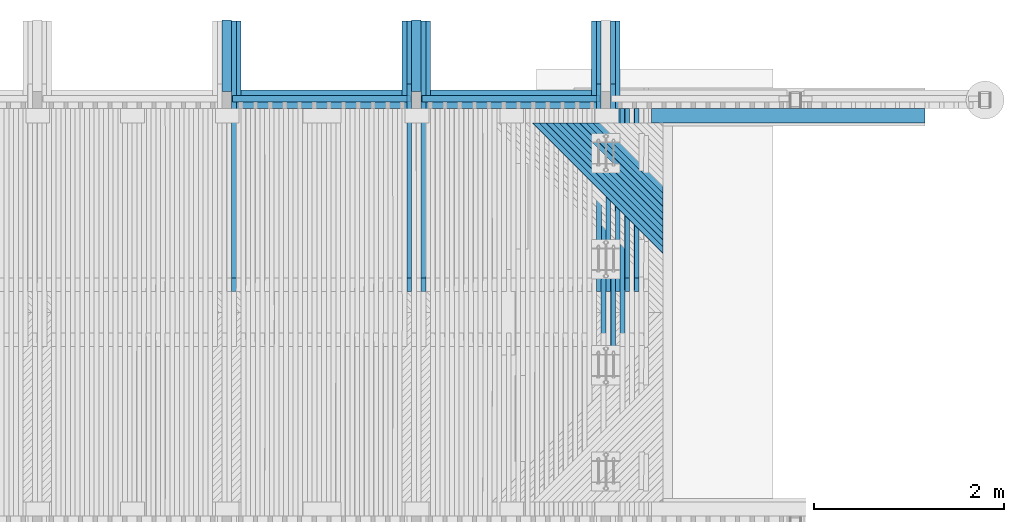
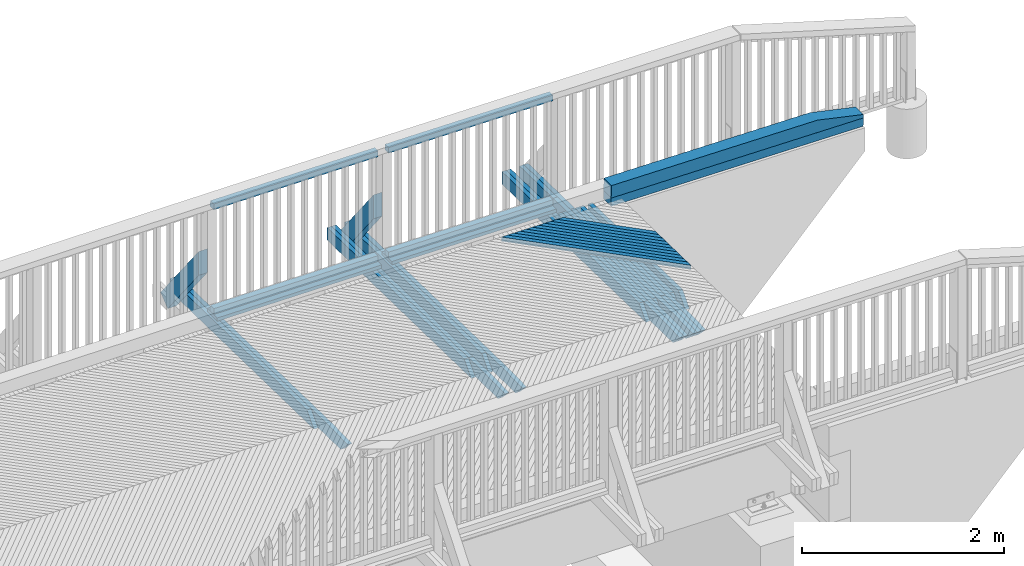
# One storey, part 47 of 53: 37 beams, 2 members.
"""IFC2X3 building model written with IfcOpenShell, lengths in millimetres."""

from ifc_helpers import new_model, si_unit, frame, origin_with_axes, place, context, subcontext, project, spatial, faceted_brep, material, type_object, element, save


model = new_model("IFC2X3")

# Units and contexts
model_context = context("Model", 3, precision=1e-05, world=origin_with_axes())
body_context = subcontext(model_context, "Body", "Model", "MODEL_VIEW")
ifc_project = project(units=[si_unit("LENGTHUNIT", "METRE", prefix="MILLI"), si_unit("AREAUNIT", "SQUARE_METRE"), si_unit("VOLUMEUNIT", "CUBIC_METRE"), si_unit("MASSUNIT", "GRAM", prefix="KILO"), si_unit("TIMEUNIT", "SECOND"), si_unit("PLANEANGLEUNIT", "RADIAN"), si_unit("SOLIDANGLEUNIT", "STERADIAN"), si_unit("THERMODYNAMICTEMPERATUREUNIT", "DEGREE_CELSIUS"), si_unit("LUMINOUSINTENSITYUNIT", "LUMEN")], contexts=[model_context])

# Site, building, storey
site_placement = place(None, origin_with_axes())
site = spatial("IfcSite", under=ifc_project, at=site_placement, Name="Undefined", CompositionType="ELEMENT")
building_placement = place(site_placement, origin_with_axes())
building = spatial("IfcBuilding", under=site, at=building_placement, Name="Undefined", CompositionType="ELEMENT")
storey_placement = place(building_placement, origin_with_axes())
storey = spatial("IfcBuildingStorey", under=building, at=storey_placement, Name="Undefined", CompositionType="ELEMENT", Elevation=0.0)

# Beams
ifc_material = material(Name="TIMBER/Timber_Undefined")
beam_type_1 = type_object("IfcBeamType", Name="150*100", PredefinedType="NOTDEFINED")
beam_1_placement = place(storey_placement, frame((19364.0305880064, 44439.9999999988, 3118.67572907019), z_axis=(0.0, -1.0, 0.0), x_axis=(-0.999904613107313, 0.0, 0.0138117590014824)))
element("IfcBeam", 1, at=beam_1_placement, inside=storey, type_object=beam_type_1, material=ifc_material, Name="TÖRMÄYSJOHDE", ObjectType="150*100", context=body_context, shape_type="Brep", body=[
    faceted_brep([(-3.63797880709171e-12, 50.0, -75.0), (-3.63797880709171e-12, 50.0, 75.0), (2885.27521749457, 50.0, 75.0), (2885.27521749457, 50.0, -75.0), (0.0, -49.9999999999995, 75.0), (2885.27521749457, -49.9999999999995, 75.0), (0.0, -49.9999999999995, -75.0), (2885.27521749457, -49.9999999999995, -75.0)], [[[0, 1, 2, 3]], [[1, 4, 5, 2]], [[4, 6, 7, 5]], [[6, 0, 3, 7]], [[5, 7, 3, 2]], [[6, 4, 1, 0]]]),
])
beam_type_2 = type_object("IfcBeamType", Name="150*150", PredefinedType="NOTDEFINED")
beam_2_placement = place(storey_placement, frame((19366.0358819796, 44439.9999999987, 3243.66334439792), z_axis=(0.0, -1.0, 0.0), x_axis=(-0.999904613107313, 0.0, 0.0138117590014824)))
element("IfcBeam", 2, at=beam_2_placement, inside=storey, type_object=beam_type_2, material=ifc_material, Name="TÖRMÄYSJOHDE", ObjectType="150*150", context=body_context, shape_type="Brep", body=[
    faceted_brep([(2885.27521749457, -74.9999999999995, 75.0), (2885.27521749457, -74.9999999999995, -75.0), (2885.27521749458, 75.0, -75.0), (2885.27521749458, 75.0, 75.0), (3.63797880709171e-12, 75.0000000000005, -75.0), (3.63797880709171e-12, 75.0000000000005, 75.0), (3.63797880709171e-12, 33.1222400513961, -75.0), (3.63797880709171e-12, 33.1222400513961, 75.0), (529.511118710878, -75.0, 75.0), (529.511118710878, -75.0, -75.0)], [[[0, 1, 2, 3]], [[4, 5, 3, 2]], [[5, 4, 6, 7]], [[0, 3, 5, 7, 8]], [[1, 0, 8, 9]], [[4, 2, 1, 9, 6]], [[8, 7, 6, 9]]]),
])

# Members
member_type = type_object("IfcMemberType", Name="180*100", PredefinedType="NOTDEFINED")
for number, where, z_axis, x_axis in (
    (3, (14000.0064146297, 45378.7683991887, 2924.11964154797), (0.0, 0.783926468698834, 0.620853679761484), (-4.01699999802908e-06, -0.620853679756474, 0.78392646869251)),
    (4, (12000.0064146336, 45378.7683991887, 2940.69175529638), (0.0, 0.783926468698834, 0.620853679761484), (-4.01699999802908e-06, -0.620853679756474, 0.78392646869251)),
):
    element("IfcMember", number, at=place(storey_placement, frame(where, z_axis=z_axis, x_axis=x_axis)), inside=storey, type_object=member_type, material=ifc_material, Name="KAIDEPYLVÄS", ObjectType="180*100", context=body_context, shape_type="Brep", body=[
        faceted_brep([(0.0, 50.0, -89.9999999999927), (0.0, 50.0, 90.0), (1214.99440716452, 50.0, 90.0000000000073), (987.715792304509, 50.0, -89.9999999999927), (0.0, -49.9999999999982, 90.0000000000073), (1214.99480886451, -50.0, 90.0000000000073), (-3.63797880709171e-12, -49.9999999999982, -90.0), (987.716194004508, -49.9999999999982, -89.9999999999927)], [[[0, 1, 2, 3]], [[1, 4, 5, 2]], [[4, 6, 7, 5]], [[6, 0, 3, 7]], [[5, 7, 3, 2]], [[6, 4, 1, 0]]]),
    ])

# Beams
beam_type_3 = type_object("IfcBeamType", Name="70*70", PredefinedType="NOTDEFINED")
beam_3_placement = place(storey_placement, frame((14059.5719402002, 44619.9900118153, 3233.34227096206), z_axis=(0.0, 1.0, 0.0), x_axis=(0.999925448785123, 0.0, -0.0122105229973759)))
element("IfcBeam", 5, at=beam_3_placement, inside=storey, type_object=beam_type_3, material=ifc_material, Name="BEAM", ObjectType="70*70", context=body_context, shape_type="Brep", body=[
    faceted_brep([(-3.63797880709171e-12, 35.0000000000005, -35.0), (-3.63797880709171e-12, 35.0000000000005, 35.0), (1880.14165787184, 35.0, 35.0), (1880.14165787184, 35.0, -35.0), (-3.63797880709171e-12, -34.9999999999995, 35.0), (1880.14165787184, -34.9999999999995, 35.0), (-3.63797880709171e-12, -34.9999999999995, -35.0), (1880.14165787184, -34.9999999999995, -35.0)], [[[0, 1, 2, 3]], [[1, 4, 5, 2]], [[4, 6, 7, 5]], [[6, 0, 3, 7]], [[5, 7, 3, 2]], [[6, 4, 1, 0]]]),
])
beam_4_placement = place(storey_placement, frame((12059.6944082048, 44619.9899990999, 3249.94799357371), z_axis=(0.0, 1.0, 0.0), x_axis=(0.999961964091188, 0.0, -0.00872183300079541)))
element("IfcBeam", 6, at=beam_4_placement, inside=storey, type_object=beam_type_3, material=ifc_material, Name="BEAM", ObjectType="70*70", context=body_context, shape_type="Brep", body=[
    faceted_brep([(-3.63797880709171e-12, 35.0000000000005, -35.0), (-3.63797880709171e-12, 35.0000000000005, 35.0), (1880.07227097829, 34.9999999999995, 35.0), (1880.07227097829, 34.9999999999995, -35.0), (-3.63797880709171e-12, -34.9999999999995, 35.0), (1880.07227097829, -35.0000000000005, 35.0), (-3.63797880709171e-12, -34.9999999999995, -35.0), (1880.07227097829, -35.0000000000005, -35.0)], [[[0, 1, 2, 3]], [[1, 4, 5, 2]], [[4, 6, 7, 5]], [[6, 0, 3, 7]], [[5, 7, 3, 2]], [[6, 4, 1, 0]]]),
])
beam_5_placement = place(storey_placement, frame((14059.5719402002, 44619.9900118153, 4498.34227096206), z_axis=(0.0, 1.0, 0.0), x_axis=(0.999925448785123, 0.0, -0.0122105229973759)))
element("IfcBeam", 7, at=beam_5_placement, inside=storey, type_object=beam_type_3, material=ifc_material, Name="BEAM", ObjectType="70*70", context=body_context, shape_type="Brep", body=[
    faceted_brep([(-3.63797880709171e-12, 35.0000000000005, -35.0), (-3.63797880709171e-12, 35.0000000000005, 35.0), (1880.14165787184, 35.0, 35.0), (1880.14165787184, 35.0, -35.0), (-3.63797880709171e-12, -34.9999999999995, 35.0), (1880.14165787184, -34.9999999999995, 35.0), (-3.63797880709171e-12, -34.9999999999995, -35.0), (1880.14165787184, -34.9999999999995, -35.0)], [[[0, 1, 2, 3]], [[1, 4, 5, 2]], [[4, 6, 7, 5]], [[6, 0, 3, 7]], [[5, 7, 3, 2]], [[6, 4, 1, 0]]]),
])
beam_6_placement = place(storey_placement, frame((12059.6944082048, 44619.9899990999, 4514.94799357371), z_axis=(0.0, 1.0, 0.0), x_axis=(0.999961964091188, 0.0, -0.00872183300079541)))
element("IfcBeam", 8, at=beam_6_placement, inside=storey, type_object=beam_type_3, material=ifc_material, Name="BEAM", ObjectType="70*70", context=body_context, shape_type="Brep", body=[
    faceted_brep([(-3.63797880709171e-12, 35.0000000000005, -35.0), (-3.63797880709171e-12, 35.0000000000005, 35.0), (1880.07227097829, 34.9999999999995, 35.0), (1880.07227097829, 34.9999999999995, -35.0), (-3.63797880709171e-12, -34.9999999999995, 35.0), (1880.07227097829, -35.0000000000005, 35.0), (-3.63797880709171e-12, -34.9999999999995, -35.0), (1880.07227097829, -35.0000000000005, -35.0)], [[[0, 1, 2, 3]], [[1, 4, 5, 2]], [[4, 6, 7, 5]], [[6, 0, 3, 7]], [[5, 7, 3, 2]], [[6, 4, 1, 0]]]),
])
beam_type_4 = type_object("IfcBeamType", Name="195*40", PredefinedType="NOTDEFINED")
for number, where, z_axis, x_axis, name in (
    (9, (14058.0442658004, 44612.4900118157, 3178.3660739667), (0.0, 1.0, 0.0), (0.999925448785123, 0.0, -0.0122105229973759), "BEAM"),
    (10, (12058.3585482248, 44612.4899991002, 3194.96680130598), (0.0, 1.0, 0.0), (0.999961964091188, 0.0, -0.00872183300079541), "BEAM"),
):
    element("IfcBeam", number, at=place(storey_placement, frame(where, z_axis=z_axis, x_axis=x_axis)), inside=storey, type_object=beam_type_4, material=ifc_material, Name=name, ObjectType="195*40", context=body_context, shape_type="Brep", body=[
        faceted_brep([(0.0, 20.0, -97.5), (0.0, 20.0, 97.5), (1880.22135781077, 19.9999999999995, 97.5), (1880.22135781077, 19.9999999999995, -97.5), (3.63797880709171e-12, -20.0, 97.5), (1880.22135781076, -20.0000000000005, 97.5), (3.63797880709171e-12, -20.0, -97.5), (1880.22135781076, -20.0000000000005, -97.5)], [[[0, 1, 2, 3]], [[1, 4, 5, 2]], [[4, 6, 7, 5]], [[6, 0, 3, 7]], [[5, 7, 3, 2]], [[6, 4, 1, 0]]]),
    ])
beam_type_5 = type_object("IfcBeamType", Name="50*50", PredefinedType="NOTDEFINED")
beam_7_placement = place(storey_placement, frame((17895.3052888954, 42365.4998996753, 3154.80495489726), z_axis=(0.706807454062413, 0.706981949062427, -0.0244897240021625), x_axis=(-0.707254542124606, 0.706948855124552, -0.00378535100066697)))
element("IfcBeam", 11, at=beam_7_placement, inside=storey, type_object=beam_type_5, material=ifc_material, Name="BEAM", ObjectType="50*50", context=body_context, shape_type="Brep", body=[
    faceted_brep([(2804.3406783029, -25.0, 24.9999999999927), (2854.34301907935, -25.0, -25.0), (2852.92877373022, 25.0, -25.0000000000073), (2802.92643296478, 25.0, 25.0), (1856.9571734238, 25.0, 25.0000000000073), (1855.92241106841, -24.9999999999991, 25.0), (1805.95401836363, -25.0, -24.9999999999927), (1806.98878071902, 25.0000000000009, -25.0)], [[[0, 1, 2, 3]], [[0, 3, 4, 5]], [[1, 0, 5, 6]], [[2, 1, 6, 7]], [[3, 2, 7, 4]], [[6, 5, 4, 7]]]),
])
beam_8_placement = place(storey_placement, frame((17824.5905388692, 42365.4998996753, 3155.96311087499), z_axis=(0.706810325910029, 0.706981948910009, -0.0244067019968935), x_axis=(-0.707254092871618, 0.706948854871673, -0.00386842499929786)))
element("IfcBeam", 12, at=beam_8_placement, inside=storey, type_object=beam_type_5, material=ifc_material, Name="BEAM", ObjectType="50*50", context=body_context, shape_type="Brep", body=[
    faceted_brep([(2804.3406783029, -25.0, 24.9999999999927), (2854.34301907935, -25.0, -25.0), (2852.92877373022, 25.0, -25.0000000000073), (2802.92643296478, 25.0, 25.0), (1756.96937511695, 25.0, 24.9999999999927), (1755.94291351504, -25.0, 25.0), (1705.97428604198, -24.9999999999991, -25.0), (1707.0007476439, 25.0, -25.0)], [[[0, 1, 2, 3]], [[0, 3, 4, 5]], [[1, 0, 5, 6]], [[2, 1, 6, 7]], [[3, 2, 7, 4]], [[6, 5, 4, 7]]]),
])
beam_9_placement = place(storey_placement, frame((17753.8756532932, 42365.4998996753, 3157.11296064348), z_axis=(0.706813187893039, 0.706981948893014, -0.0243236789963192), x_axis=(-0.707253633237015, 0.706948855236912, -0.00395150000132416)))
element("IfcBeam", 13, at=beam_9_placement, inside=storey, type_object=beam_type_5, material=ifc_material, Name="BEAM", ObjectType="50*50", context=body_context, shape_type="Brep", body=[
    faceted_brep([(2804.3406783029, -25.0, 24.9999999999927), (2854.34301907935, -25.0, -25.0), (2852.92877373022, 25.0, -25.0000000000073), (2802.92643296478, 25.0, 25.0), (1656.98128205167, 25.0, 25.0000000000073), (1655.96312129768, -25.0, 25.0000000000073), (1605.99425901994, -25.0, -24.9999999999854), (1607.01241977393, 25.0, -25.0)], [[[0, 1, 2, 3]], [[0, 3, 4, 5]], [[1, 0, 5, 6]], [[2, 1, 6, 7]], [[3, 2, 7, 4]], [[6, 5, 4, 7]]]),
])
beam_10_placement = place(storey_placement, frame((17683.1606331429, 42365.4998996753, 3158.25450418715), z_axis=(0.706816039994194, 0.706981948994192, -0.0242406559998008), x_axis=(-0.707253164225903, 0.706948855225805, -0.0040345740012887)))
element("IfcBeam", 14, at=beam_10_placement, inside=storey, type_object=beam_type_5, material=ifc_material, Name="BEAM", ObjectType="50*50", context=body_context, shape_type="Brep", body=[
    faceted_brep([(2804.3406783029, -25.0, 24.9999999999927), (2854.34301907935, -25.0, -25.0), (2852.92877373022, 25.0, -25.0000000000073), (2802.92643296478, 25.0, 25.0), (1556.99288906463, 25.0, 25.0000000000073), (1555.98302910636, -25.0000000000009, 25.0), (1506.01393205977, -25.0000000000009, -25.0), (1507.02379201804, 24.9999999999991, -25.0)], [[[0, 1, 2, 3]], [[0, 3, 4, 5]], [[1, 0, 5, 6]], [[2, 1, 6, 7]], [[3, 2, 7, 4]], [[6, 5, 4, 7]]]),
])
beam_11_placement = place(storey_placement, frame((17612.4454793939, 42365.4998996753, 3159.38774149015), z_axis=(0.706818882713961, 0.706981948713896, -0.0241576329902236), x_axis=(-0.70725268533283, 0.706948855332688, -0.00411764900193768)))
element("IfcBeam", 15, at=beam_11_placement, inside=storey, type_object=beam_type_5, material=ifc_material, Name="BEAM", ObjectType="50*50", context=body_context, shape_type="Brep", body=[
    faceted_brep([(2804.3406783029, -25.0, 24.9999999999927), (2854.34301907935, -25.0, -25.0), (2852.92877373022, 25.0, -25.0000000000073), (2802.92643296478, 25.0, 25.0), (1457.00419456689, 25.0000000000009, 25.0000000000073), (1456.00263545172, -24.9999999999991, 25.0), (1406.03330360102, -25.0, -25.0), (1407.03486271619, 25.0000000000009, -25.0)], [[[0, 1, 2, 3]], [[0, 3, 4, 5]], [[1, 0, 5, 6]], [[2, 1, 6, 7]], [[3, 2, 7, 4]], [[6, 5, 4, 7]]]),
])
beam_12_placement = place(storey_placement, frame((17541.730193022, 42365.4998996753, 3160.51267253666), z_axis=(0.706821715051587, 0.706981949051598, -0.0240746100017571), x_axis=(-0.707252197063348, 0.706948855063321, -0.00420072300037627)))
element("IfcBeam", 16, at=beam_12_placement, inside=storey, type_object=beam_type_5, material=ifc_material, Name="BEAM", ObjectType="50*50", context=body_context, shape_type="Brep", body=[
    faceted_brep([(2804.3406783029, -25.0, 24.9999999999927), (2854.34301907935, -25.0, -25.0), (2852.92877373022, 25.0, -25.0000000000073), (2802.92643296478, 25.0, 25.0), (1357.0151947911, 25.0000000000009, 25.0), (1356.02193646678, -24.9999999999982, 25.0), (1306.05236988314, -25.0, -24.9999999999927), (1307.04562820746, 25.0000000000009, -24.9999999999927)], [[[0, 1, 2, 3]], [[0, 3, 4, 5]], [[1, 0, 5, 6]], [[2, 1, 6, 7]], [[3, 2, 7, 4]], [[6, 5, 4, 7]]]),
])
beam_13_placement = place(storey_placement, frame((17471.0147750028, 42365.4998996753, 3161.6292973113), z_axis=(0.706824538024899, 0.706981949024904, -0.0239915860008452), x_axis=(-0.7072516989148, 0.706948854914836, -0.004283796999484)))
element("IfcBeam", 17, at=beam_13_placement, inside=storey, type_object=beam_type_5, material=ifc_material, Name="BEAM", ObjectType="50*50", context=body_context, shape_type="Brep", body=[
    faceted_brep([(2804.3406783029, -25.0, 24.9999999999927), (2854.34301907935, -25.0, -25.0), (2852.92877373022, 25.0, -25.0000000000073), (2802.92643296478, 25.0, 25.0), (1257.02588801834, 25.0000000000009, 25.0), (1256.04093053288, -24.9999999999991, 25.0), (1206.07112918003, -24.9999999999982, -24.9999999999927), (1207.05608666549, 25.0000000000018, -24.9999999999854)], [[[0, 1, 2, 3]], [[0, 3, 4, 5]], [[1, 0, 5, 6]], [[2, 1, 6, 7]], [[3, 2, 7, 4]], [[6, 5, 4, 7]]]),
])
beam_14_placement = place(storey_placement, frame((17400.2992263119, 42365.4998996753, 3162.73761579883), z_axis=(0.706827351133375, 0.706981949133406, -0.0239085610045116), x_axis=(-0.707251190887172, 0.70694885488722, -0.00436687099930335)))
element("IfcBeam", 18, at=beam_14_placement, inside=storey, type_object=beam_type_5, material=ifc_material, Name="BEAM", ObjectType="50*50", context=body_context, shape_type="Brep", body=[
    faceted_brep([(2804.3406783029, -25.0, 24.9999999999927), (2854.34301907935, -25.0, -25.0), (2852.92877373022, 25.0, -25.0000000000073), (2802.92643296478, 25.0, 25.0), (1157.03627142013, 25.0, 25.0), (1156.05961482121, -25.0000000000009, 25.0), (1106.08957869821, -25.0, -25.0), (1107.06623529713, 25.0, -25.0000000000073)], [[[0, 1, 2, 3]], [[0, 3, 4, 5]], [[1, 0, 5, 6]], [[2, 1, 6, 7]], [[3, 2, 7, 4]], [[6, 5, 4, 7]]]),
])
beam_15_placement = place(storey_placement, frame((17329.583547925, 42365.4998996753, 3163.83762798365), z_axis=(0.706830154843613, 0.706981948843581, -0.0238255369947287), x_axis=(-0.70725067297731, 0.706948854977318, -0.00444994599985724)))
element("IfcBeam", 19, at=beam_15_placement, inside=storey, type_object=beam_type_5, material=ifc_material, Name="BEAM", ObjectType="50*50", context=body_context, shape_type="Brep", body=[
    faceted_brep([(2804.3406783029, -25.0, 24.9999999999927), (2854.34301907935, -25.0, -25.0), (2852.92877373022, 25.0, -25.0000000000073), (2802.92643296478, 25.0, 25.0), (1057.04634223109, 25.0, 25.0000000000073), (1056.07798651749, -25.0, 25.0), (1006.10771559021, -25.0, -25.0), (1007.0760713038, 25.0, -25.0)], [[[0, 1, 2, 3]], [[0, 3, 4, 5]], [[1, 0, 5, 6]], [[2, 1, 6, 7]], [[3, 2, 7, 4]], [[6, 5, 4, 7]]]),
])
beam_16_placement = place(storey_placement, frame((17258.8677408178, 42365.4998996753, 3164.92933385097), z_axis=(0.706832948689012, 0.706981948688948, -0.0237425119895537), x_axis=(-0.707250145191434, 0.706948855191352, -0.00453302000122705)))
element("IfcBeam", 20, at=beam_16_placement, inside=storey, type_object=beam_type_5, material=ifc_material, Name="BEAM", ObjectType="50*50", context=body_context, shape_type="Brep", body=[
    faceted_brep([(2804.3406783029, -25.0, 24.9999999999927), (2854.34301907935, -25.0, -25.0), (2852.92877373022, 25.0, -25.0000000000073), (2802.92643296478, 25.0, 25.0), (957.056097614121, 25.0, 25.0000000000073), (956.09604278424, -25.0, 25.0), (906.125537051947, -24.9999999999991, -25.0), (907.085591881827, 25.0, -24.9999999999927)], [[[0, 1, 2, 3]], [[0, 3, 4, 5]], [[1, 0, 5, 6]], [[2, 1, 6, 7]], [[3, 2, 7, 4]], [[6, 5, 4, 7]]]),
])
beam_type_6 = type_object("IfcBeamType", Name="150*50", PredefinedType="NOTDEFINED")
beam_17_placement = place(storey_placement, frame((16124.2820196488, 45437.2106524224, 3019.83126809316), z_axis=(0.0134985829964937, 0.0199960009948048, 0.999708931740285), x_axis=(0.0002685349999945, -0.999800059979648, 0.0199941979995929)))
element("IfcBeam", 21, at=beam_17_placement, inside=storey, type_object=beam_type_6, material=ifc_material, Name="BEAM", ObjectType="150*50", context=body_context, shape_type="Brep", body=[
    faceted_brep([(1.28420651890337e-08, -24.9999999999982, -74.9999999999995), (1.28420651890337e-08, 25.0000000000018, -75.0), (3298.90492234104, 25.0, -75.0), (3298.90497884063, -24.9999999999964, -75.0), (-1.28347892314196e-08, -24.9999999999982, 75.0), (-1.28347892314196e-08, 25.0, 75.0), (3074.32497546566, 25.0000000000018, 75.0), (3434.49245887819, 25.0, 60.5875365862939), (3434.49251531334, -24.9999999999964, 60.587536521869), (3074.32503029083, -25.0, 75.0000000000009)], [[[0, 1, 2, 3]], [[0, 4, 5, 1]], [[2, 1, 5, 6, 7]], [[3, 2, 7, 8]], [[4, 0, 3, 8, 9]], [[5, 4, 9, 6]], [[8, 7, 6, 9]]]),
])
beam_18_placement = place(storey_placement, frame((16074.2687927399, 45437.2106678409, 3020.50657104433), z_axis=(0.0133324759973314, 0.0199960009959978, 0.999711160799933), x_axis=(0.000265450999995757, -0.99980005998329, 0.0199942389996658)))
element("IfcBeam", 22, at=beam_18_placement, inside=storey, type_object=beam_type_6, material=ifc_material, Name="BEAM", ObjectType="150*50", context=body_context, shape_type="Brep", body=[
    faceted_brep([(1.28420651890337e-08, -24.9999999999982, -74.9999999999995), (-1.28347892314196e-08, -24.9999999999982, 75.0), (-1.28347892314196e-08, 25.0, 75.0), (1.28420651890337e-08, 25.0000000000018, -75.0), (2713.86933800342, 25.0000000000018, 75.0), (2852.32643692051, 24.9999999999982, -75.0000000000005), (2852.32648139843, -25.0000000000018, -75.0000000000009), (2713.86938248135, -25.0000000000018, 74.9999999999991)], [[[0, 1, 2, 3]], [[3, 2, 4, 5]], [[0, 3, 5, 6]], [[1, 0, 6, 7]], [[2, 1, 7, 4]], [[6, 5, 4, 7]]]),
])
beam_19_placement = place(storey_placement, frame((14124.5888639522, 45437.2106524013, 3043.50597132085), z_axis=(0.0101765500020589, 0.0199960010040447, 0.99974826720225), x_axis=(0.000202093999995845, -0.99980005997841, 0.0199949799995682)))
element("IfcBeam", 23, at=beam_19_placement, inside=storey, type_object=beam_type_6, material=ifc_material, Name="BEAM", ObjectType="150*50", context=body_context, shape_type="Brep", body=[
    faceted_brep([(1.28420651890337e-08, -24.9999999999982, -74.9999999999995), (1.28420651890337e-08, 25.0000000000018, -75.0), (3298.90492234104, 25.0, -75.0), (3298.90497884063, -24.9999999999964, -75.0), (-1.28347892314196e-08, -24.9999999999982, 75.0), (-1.28347892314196e-08, 25.0, 75.0), (3074.32497546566, 25.0000000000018, 75.0), (3434.49245887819, 25.0, 60.5875365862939), (3434.49251531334, -24.9999999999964, 60.587536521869), (3074.32503029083, -25.0, 75.0000000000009)], [[[0, 1, 2, 3]], [[0, 4, 5, 1]], [[2, 1, 5, 6, 7]], [[3, 2, 7, 8]], [[4, 0, 3, 8, 9]], [[5, 4, 9, 6]], [[8, 7, 6, 9]]]),
])
beam_20_placement = place(storey_placement, frame((14074.5736691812, 45437.2106678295, 3044.01508028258), z_axis=(0.0100104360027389, 0.0199960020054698, 0.999749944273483), x_axis=(0.000199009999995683, -0.999800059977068, 0.0199950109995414)))
element("IfcBeam", 24, at=beam_20_placement, inside=storey, type_object=beam_type_6, material=ifc_material, Name="BEAM", ObjectType="150*50", context=body_context, shape_type="Brep", body=[
    faceted_brep([(1.28420651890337e-08, -24.9999999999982, -74.9999999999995), (-1.28347892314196e-08, -24.9999999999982, 75.0), (-1.28347892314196e-08, 25.0, 75.0), (1.28420651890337e-08, 25.0000000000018, -75.0), (2713.86933800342, 25.0000000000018, 75.0), (2852.32643692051, 24.9999999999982, -75.0000000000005), (2852.32648139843, -25.0000000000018, -75.0000000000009), (2713.86938248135, -25.0000000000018, 74.9999999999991)], [[[0, 1, 2, 3]], [[3, 2, 4, 5]], [[0, 3, 5, 6]], [[1, 0, 6, 7]], [[2, 1, 7, 4]], [[6, 5, 4, 7]]]),
])
beam_21_placement = place(storey_placement, frame((12124.8280789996, 45437.2106523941, 3060.53571113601), z_axis=(0.00685440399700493, 0.0199960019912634, 0.999776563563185), x_axis=(0.000135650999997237, -0.999800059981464, 0.0199955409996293)))
element("IfcBeam", 25, at=beam_21_placement, inside=storey, type_object=beam_type_6, material=ifc_material, Name="BEAM", ObjectType="150*50", context=body_context, shape_type="Brep", body=[
    faceted_brep([(1.28420651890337e-08, -24.9999999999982, -74.9999999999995), (1.28420651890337e-08, 25.0000000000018, -75.0), (3298.90492234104, 25.0, -75.0), (3298.90497884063, -24.9999999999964, -75.0), (-1.28347892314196e-08, -24.9999999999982, 75.0), (-1.28347892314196e-08, 25.0, 75.0), (3074.32497546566, 25.0000000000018, 75.0), (3434.49245887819, 25.0, 60.5875365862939), (3434.49251531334, -24.9999999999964, 60.587536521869), (3074.32503029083, -25.0, 75.0000000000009)], [[[0, 1, 2, 3]], [[0, 4, 5, 1]], [[2, 1, 5, 6, 7]], [[3, 2, 7, 8]], [[4, 0, 3, 8, 9]], [[5, 4, 9, 6]], [[8, 7, 6, 9]]]),
])
beam_22_placement = place(storey_placement, frame((12074.8114686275, 45437.2106678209, 3060.87862046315), z_axis=(0.00668828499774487, 0.0199960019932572, 0.999777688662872), x_axis=(0.000132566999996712, -0.999800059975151, 0.019995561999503)))
element("IfcBeam", 26, at=beam_22_placement, inside=storey, type_object=beam_type_6, material=ifc_material, Name="BEAM", ObjectType="150*50", context=body_context, shape_type="Brep", body=[
    faceted_brep([(1.28420651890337e-08, -24.9999999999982, -74.9999999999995), (-1.28347892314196e-08, -24.9999999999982, 75.0), (-1.28347892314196e-08, 25.0, 75.0), (1.28420651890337e-08, 25.0000000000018, -75.0), (2713.86933800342, 25.0000000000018, 75.0), (2852.32643692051, 24.9999999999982, -75.0000000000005), (2852.32648139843, -25.0000000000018, -75.0000000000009), (2713.86938248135, -25.0000000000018, 74.9999999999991)], [[[0, 1, 2, 3]], [[3, 2, 4, 5]], [[0, 3, 5, 6]], [[1, 0, 6, 7]], [[2, 1, 7, 4]], [[6, 5, 4, 7]]]),
])
beam_23_placement = place(storey_placement, frame((15874.2440465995, 45437.2106832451, 3023.15754236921), z_axis=(0.0130002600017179, 0.0199960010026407, 0.999715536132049), x_axis=(0.000261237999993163, -0.999800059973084, 0.0199942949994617)))
element("IfcBeam", 27, at=beam_23_placement, inside=storey, type_object=beam_type_6, material=ifc_material, Name="BEAM", ObjectType="150*50", context=body_context, shape_type="Brep", body=[
    faceted_brep([(1.28420651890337e-08, -24.9999999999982, -74.9999999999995), (-1.28347892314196e-08, -24.9999999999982, 75.0), (-1.28347892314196e-08, 25.0, 75.0), (1.28420651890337e-08, 25.0000000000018, -75.0), (2713.86939704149, 24.9999999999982, 75.0000000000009), (2852.32649585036, 25.0, -74.9999999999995), (2852.32641872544, -25.0, -74.9999999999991), (2713.86931991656, -25.0, 75.0)], [[[0, 1, 2, 3]], [[3, 2, 4, 5]], [[0, 3, 5, 6]], [[1, 0, 6, 7]], [[2, 1, 7, 4]], [[6, 5, 4, 7]]]),
])
beam_24_placement = place(storey_placement, frame((15924.2619890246, 45437.2106678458, 3022.49880086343), z_axis=(0.0131663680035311, 0.019996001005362, 0.9997133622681), x_axis=(0.000263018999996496, -0.999800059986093, 0.0199942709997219)))
element("IfcBeam", 28, at=beam_24_placement, inside=storey, type_object=beam_type_6, material=ifc_material, Name="BEAM", ObjectType="150*50", context=body_context, shape_type="Brep", body=[
    faceted_brep([(1.28420651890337e-08, -24.9999999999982, -74.9999999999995), (1.28420651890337e-08, 25.0000000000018, -75.0), (3298.90492234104, 25.0, -75.0), (3298.90497884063, -24.9999999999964, -75.0), (-1.28347892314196e-08, -24.9999999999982, 75.0), (-1.28347892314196e-08, 25.0, 75.0), (3074.32503673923, 25.0000000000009, 75.0), (3434.49245887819, 25.0, 60.5875365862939), (3434.49251531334, -24.9999999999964, 60.587536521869), (3074.32503029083, -25.0, 75.0000000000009)], [[[0, 1, 2, 3]], [[0, 4, 5, 1]], [[2, 1, 5, 6, 7]], [[3, 2, 7, 8]], [[4, 0, 3, 8, 9]], [[5, 4, 9, 6]], [[8, 7, 6, 9]]]),
])
beam_25_placement = place(storey_placement, frame((13874.5412183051, 45437.2106832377, 3046.00136950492), z_axis=(0.00967820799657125, 0.0199960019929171, 0.999753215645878), x_axis=(0.000194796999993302, -0.999800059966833, 0.0199950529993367)))
element("IfcBeam", 29, at=beam_25_placement, inside=storey, type_object=beam_type_6, material=ifc_material, Name="BEAM", ObjectType="150*50", context=body_context, shape_type="Brep", body=[
    faceted_brep([(1.28420651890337e-08, -24.9999999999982, -74.9999999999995), (-1.28347892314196e-08, -24.9999999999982, 75.0), (-1.28347892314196e-08, 25.0, 75.0), (1.28420651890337e-08, 25.0000000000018, -75.0), (2713.86939704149, 24.9999999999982, 75.0000000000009), (2852.32649585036, 25.0, -74.9999999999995), (2852.32641872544, -25.0, -74.9999999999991), (2713.86931991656, -25.0, 75.0)], [[[0, 1, 2, 3]], [[3, 2, 4, 5]], [[0, 3, 5, 6]], [[1, 0, 6, 7]], [[2, 1, 7, 4]], [[6, 5, 4, 7]]]),
])
beam_26_placement = place(storey_placement, frame((13924.5610735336, 45437.2106678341, 3045.50883754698), z_axis=(0.009844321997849, 0.0199960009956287, 0.999751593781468), x_axis=(0.000196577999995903, -0.999800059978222, 0.0199950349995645)))
element("IfcBeam", 30, at=beam_26_placement, inside=storey, type_object=beam_type_6, material=ifc_material, Name="BEAM", ObjectType="150*50", context=body_context, shape_type="Brep", body=[
    faceted_brep([(1.28420651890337e-08, -24.9999999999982, -74.9999999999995), (1.28420651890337e-08, 25.0000000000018, -75.0), (3298.90492234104, 25.0, -75.0), (3298.90497884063, -24.9999999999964, -75.0), (-1.28347892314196e-08, -24.9999999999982, 75.0), (-1.28347892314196e-08, 25.0, 75.0), (3074.32503673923, 25.0000000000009, 75.0), (3434.49245887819, 25.0, 60.5875365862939), (3434.49251531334, -24.9999999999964, 60.587536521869), (3074.32503029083, -25.0, 75.0000000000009)], [[[0, 1, 2, 3]], [[0, 4, 5, 1]], [[2, 1, 5, 6, 7]], [[3, 2, 7, 8]], [[4, 0, 3, 8, 9]], [[5, 4, 9, 6]], [[8, 7, 6, 9]]]),
])
beam_27_placement = place(storey_placement, frame((16324.1883764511, 44513.4953923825, 3035.57025962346), z_axis=(0.013832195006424, 0.0199960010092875, 0.999704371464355), x_axis=(0.000276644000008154, -0.999800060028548, 0.0199940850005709)))
element("IfcBeam", 31, at=beam_27_placement, inside=storey, type_object=beam_type_6, material=ifc_material, Name="BEAM", ObjectType="150*50", context=body_context, shape_type="Brep", body=[
    faceted_brep([(1.28420651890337e-08, -24.9999999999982, -74.9999999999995), (-1.28347892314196e-08, -24.9999999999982, 75.0), (-1.28347892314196e-08, 25.0, 75.0), (1.28420651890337e-08, 25.0000000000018, -75.0), (1789.96936408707, 24.9999999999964, 75.0000000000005), (1928.42646328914, 24.9999999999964, -74.9999999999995), (1928.42646353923, -25.0000000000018, -75.0), (1789.96936433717, -25.0000000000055, 74.9999999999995)], [[[0, 1, 2, 3]], [[3, 2, 4, 5]], [[0, 3, 5, 6]], [[1, 0, 6, 7]], [[2, 1, 7, 4]], [[5, 4, 7, 6]]]),
])
beam_28_placement = place(storey_placement, frame((16174.162435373, 44513.4953923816, 3037.62877245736), z_axis=(0.0134999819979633, 0.0199960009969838, 0.999708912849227), x_axis=(0.000269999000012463, -0.999800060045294, 0.0199941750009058)))
element("IfcBeam", 32, at=beam_28_placement, inside=storey, type_object=beam_type_6, material=ifc_material, Name="BEAM", ObjectType="150*50", context=body_context, shape_type="Brep", body=[
    faceted_brep([(1.28420651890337e-08, -24.9999999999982, -74.9999999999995), (1.28420651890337e-08, 25.0000000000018, -75.0), (2375.00494422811, 25.0000000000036, -75.0), (2375.0049444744, -24.9999999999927, -74.9999999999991), (-1.28347892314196e-08, -24.9999999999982, 75.0), (-1.28347892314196e-08, 25.0, 75.0), (2150.42515052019, 25.0000000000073, 75.0), (2510.59248715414, 25.0000000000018, 60.5875433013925), (2510.5924871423, -24.9999999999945, 60.5875430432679), (2150.42514405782, -24.9999999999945, 75.0)], [[[0, 1, 2, 3]], [[0, 4, 5, 1]], [[2, 1, 5, 6, 7]], [[3, 2, 7, 8]], [[4, 0, 3, 8, 9]], [[5, 4, 9, 6]], [[8, 7, 6, 9]]]),
])
for number, where, z_axis, x_axis, name in (
    (33, (16224.1777953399, 44513.4953923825, 3036.94505937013), (0.0136660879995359, 0.0199960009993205, 0.999706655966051), (0.000273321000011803, -0.999800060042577, 0.0199941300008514), "BEAM"),
    (34, (16124.166987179, 44513.4953923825, 3038.30324180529), (0.0134999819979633, 0.0199960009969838, 0.999708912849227), (0.000269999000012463, -0.999800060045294, 0.0199941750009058), "BEAM"),
):
    element("IfcBeam", number, at=place(storey_placement, frame(where, z_axis=z_axis, x_axis=x_axis)), inside=storey, type_object=beam_type_6, material=ifc_material, Name=name, ObjectType="150*50", context=body_context, shape_type="Brep", body=[
        faceted_brep([(1.28420651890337e-08, -24.9999999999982, -74.9999999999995), (-1.28347892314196e-08, -24.9999999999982, 75.0), (-1.28347892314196e-08, 25.0, 75.0), (1.28420651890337e-08, 25.0000000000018, -75.0), (1789.96936408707, 24.9999999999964, 75.0000000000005), (1928.42646328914, 24.9999999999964, -74.9999999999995), (1928.42646353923, -25.0000000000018, -75.0), (1789.96936433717, -25.0000000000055, 74.9999999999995)], [[[0, 1, 2, 3]], [[3, 2, 4, 5]], [[0, 3, 5, 6]], [[1, 0, 6, 7]], [[2, 1, 7, 4]], [[5, 4, 7, 6]]]),
    ])
beam_29_placement = place(storey_placement, frame((15974.1403703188, 44513.4953923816, 3040.31189930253), z_axis=(0.0131677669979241, 0.019996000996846, 0.999713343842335), x_axis=(0.000263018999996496, -0.999800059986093, 0.0199942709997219)))
element("IfcBeam", 35, at=beam_29_placement, inside=storey, type_object=beam_type_6, material=ifc_material, Name="BEAM", ObjectType="150*50", context=body_context, shape_type="Brep", body=[
    faceted_brep([(1.28420651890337e-08, -24.9999999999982, -74.9999999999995), (1.28420651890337e-08, 25.0000000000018, -75.0), (2375.00494422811, 25.0000000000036, -75.0), (2375.0049444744, -24.9999999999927, -74.9999999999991), (-1.28347892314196e-08, -24.9999999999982, 75.0), (-1.28347892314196e-08, 25.0, 75.0), (2150.42515052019, 25.0000000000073, 75.0), (2510.59248715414, 25.0000000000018, 60.5875433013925), (2510.5924871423, -24.9999999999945, 60.5875430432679), (2150.42514405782, -24.9999999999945, 75.0)], [[[0, 1, 2, 3]], [[0, 4, 5, 1]], [[2, 1, 5, 6, 7]], [[3, 2, 7, 8]], [[4, 0, 3, 8, 9]], [[5, 4, 9, 6]], [[8, 7, 6, 9]]]),
])
beam_30_placement = place(storey_placement, frame((16024.1559547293, 44513.4953923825, 3039.64480689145), z_axis=(0.0133338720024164, 0.0199960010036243, 0.999711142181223), x_axis=(0.000266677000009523, -0.999800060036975, 0.0199942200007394)))
element("IfcBeam", 36, at=beam_30_placement, inside=storey, type_object=beam_type_6, material=ifc_material, Name="BEAM", ObjectType="150*50", context=body_context, shape_type="Brep", body=[
    faceted_brep([(1.28420651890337e-08, -24.9999999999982, -74.9999999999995), (-1.28347892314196e-08, -24.9999999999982, 75.0), (-1.28347892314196e-08, 25.0, 75.0), (1.28420651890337e-08, 25.0000000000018, -75.0), (1789.96936408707, 24.9999999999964, 75.0000000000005), (1928.42646328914, 24.9999999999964, -74.9999999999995), (1928.42646353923, -25.0000000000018, -75.0), (1789.96936433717, -25.0000000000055, 74.9999999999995)], [[[0, 1, 2, 3]], [[3, 2, 4, 5]], [[0, 3, 5, 6]], [[1, 0, 6, 7]], [[2, 1, 7, 4]], [[5, 4, 7, 6]]]),
])
beam_31_placement = place(storey_placement, frame((16074.4422229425, 44771.443807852, 3033.82077916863), z_axis=(0.0133324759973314, 0.0199960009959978, 0.999711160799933), x_axis=(0.000266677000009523, -0.999800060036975, 0.0199942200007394)))
element("IfcBeam", 37, at=beam_31_placement, inside=storey, type_object=beam_type_6, material=ifc_material, Name="BEAM", ObjectType="150*50", context=body_context, shape_type="Brep", body=[
    faceted_brep([(1.28420651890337e-08, -24.9999999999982, -74.9999999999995), (1.28420651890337e-08, 25.0000000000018, -75.0), (2633.00494750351, 25.0, -75.0), (2633.00494763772, -25.0, -75.0), (-1.28347892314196e-08, -24.9999999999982, 75.0), (-1.28347892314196e-08, 25.0, 75.0), (2408.42506824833, 24.9999999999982, 75.0), (2768.59248710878, 24.9999999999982, 60.5875398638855), (2768.59248713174, -25.0, 60.5875397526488), (2408.42506549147, -25.0000000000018, 75.0000000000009)], [[[0, 1, 2, 3]], [[0, 4, 5, 1]], [[2, 1, 5, 6, 7]], [[3, 2, 7, 8]], [[4, 0, 3, 8, 9]], [[5, 4, 9, 6]], [[8, 7, 6, 9]]]),
])
for number, where, z_axis, x_axis, name in (
    (38, (15924.4354192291, 44771.443807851, 3035.81300890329), (0.0131663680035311, 0.019996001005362, 0.9997133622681), (0.000263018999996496, -0.999800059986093, 0.0199942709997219), "BEAM"),
    (39, (13924.690260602, 44771.443807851, 3058.82354862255), (0.009844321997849, 0.0199960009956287, 0.999751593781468), (0.000196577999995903, -0.999800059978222, 0.0199950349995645), "BEAM"),
):
    element("IfcBeam", number, at=place(storey_placement, frame(where, z_axis=z_axis, x_axis=x_axis)), inside=storey, type_object=beam_type_6, material=ifc_material, Name=name, ObjectType="150*50", context=body_context, shape_type="Brep", body=[
        faceted_brep([(1.28420651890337e-08, -24.9999999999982, -74.9999999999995), (-1.28347892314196e-08, -24.9999999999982, 75.0), (-1.28347892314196e-08, 25.0, 75.0), (1.28420651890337e-08, 25.0000000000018, -75.0), (2047.96936762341, 24.9999999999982, 75.0000000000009), (2186.42646645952, 24.9999999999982, -74.9999999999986), (2186.42645112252, -25.0000000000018, -74.9999999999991), (2047.96935228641, -25.0000000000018, 75.0000000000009)], [[[0, 1, 2, 3]], [[3, 2, 4, 5]], [[0, 3, 5, 6]], [[1, 0, 6, 7]], [[2, 1, 7, 4]], [[6, 5, 4, 7]]]),
    ])

save(model, "model.ifc")
